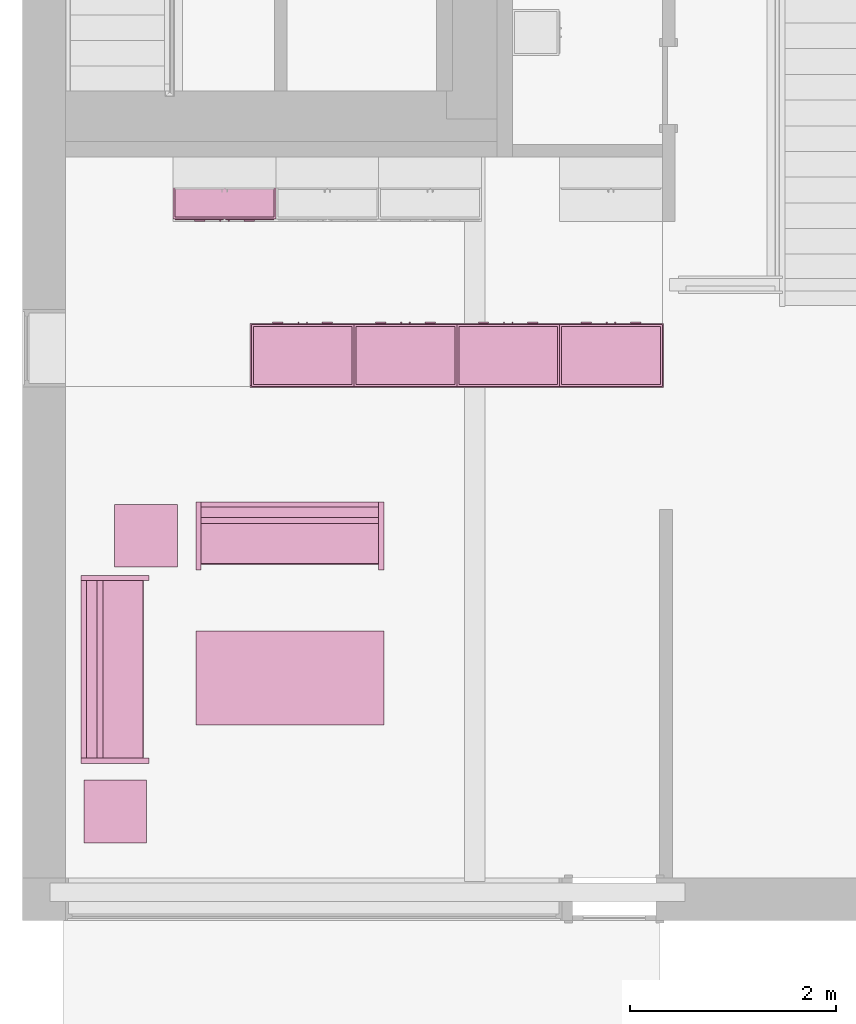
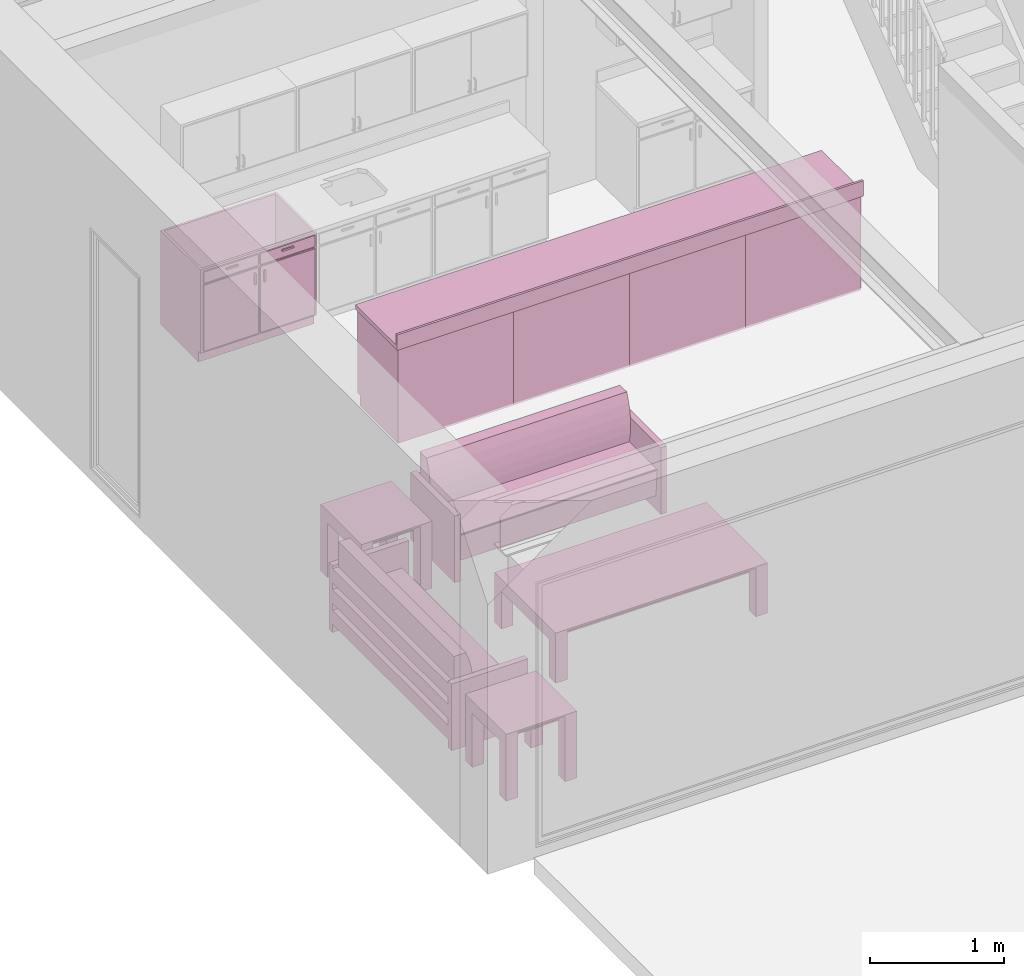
# One storey, part 9 of 18: 11 furnishings.
"""IFC4 building model written with IfcOpenShell, lengths in metres."""

from ifc_helpers import new_model, entity, si_unit, converted_unit, frame, origin, origin_2d_with_axis, place, context, project, spatial, polyline, rectangle, outline, extrude, face_set, surface_model, source, transform, mapped, type_object, type_shapes, element, save


model = new_model("IFC4")

# Units and contexts
model_context = context("Model", 3, precision=1e-09, world=origin())
plan_context = context("Plan", 3, precision=1e-09, world=origin())
ifc_project = project(units=[si_unit("LENGTHUNIT", "METRE"), si_unit("AREAUNIT", "SQUARE_METRE"), si_unit("VOLUMEUNIT", "CUBIC_METRE"), converted_unit("PLANEANGLEUNIT", "DEGREE", entity("IfcRatioMeasure", 0.01745329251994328), si_unit("PLANEANGLEUNIT", "RADIAN"), dimensions=[0, 0, 0, 0, 0, 0, 0]), si_unit("TIMEUNIT", "SECOND")], contexts=[model_context, plan_context])

# Site, building, storey, space
site_placement = place(None, origin())
site = spatial("IfcSite", under=ifc_project, at=site_placement, Name="Default", CompositionType="ELEMENT")
building_placement = place(site_placement, origin())
building = spatial("IfcBuilding", under=site, at=building_placement, CompositionType="ELEMENT")
storey_placement = place(building_placement, origin())
storey = spatial("IfcBuildingStorey", under=building, at=storey_placement, Name="Level 1", CompositionType="ELEMENT", Elevation=0.0)
space_1_placement = place(storey_placement, origin())
space_1 = spatial("IfcSpace", under=storey, at=space_1_placement, Name="A103", CompositionType="ELEMENT", PredefinedType="SPACE")

# Furnishings
furniture_type_1 = type_object("IfcFurnitureType", Name="1000mm", AssemblyPlace="NOTDEFINED")
shared_shape_1 = source(origin(), model_context, "Body", "SurfaceModel", [
    surface_model("IfcFaceBasedSurfaceModel", [(0.9809499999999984, 0.04445000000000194, 0.8600000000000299), (0.9809499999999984, 0.04445000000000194, 0.0999999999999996), (0.01905000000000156, 0.04445000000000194, 0.0999999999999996), (0.01905000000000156, 0.04445000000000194, 0.8600000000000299), (1.0, 0.02540000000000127, 0.8600000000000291), (0.0, 0.02540000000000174, 0.8600000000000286), (1.0, 0.02540000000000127, 0.0999999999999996), (0.0, 0.02540000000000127, 0.09999999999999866), (0.01905000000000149, 0.606349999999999, 0.8600000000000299), (0.01905000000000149, 0.606349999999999, 0.09999999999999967), (0.01905000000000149, 0.06040000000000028, 0.0999999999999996), (0.0, 0.6253999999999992, 0.8600000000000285), (0.0, 0.6254000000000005, 0.0), (0.0, 0.06040000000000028, 0.0), (0.0, 0.06040000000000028, 0.09999999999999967), (0.9809499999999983, 0.6063499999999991, 0.8600000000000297), (0.9809499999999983, 0.6063499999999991, 0.09999999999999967), (1.0, 0.6253999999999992, 0.8600000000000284), (1.0, 0.6253999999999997, 0.0), (0.9809499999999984, 0.06040000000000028, 0.09999999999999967), (1.0, 0.06040000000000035, 0.09999999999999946), (1.0, 0.06040000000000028, 0.0), (0.3103250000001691, 0.0, 0.815550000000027), (0.3103250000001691, 0.0, 0.8028500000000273), (0.2087250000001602, 0.0, 0.8028500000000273), (0.2087250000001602, 0.0, 0.815550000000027), (0.7912750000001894, 0.0, 0.815550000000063), (0.7912750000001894, 0.0, 0.8028500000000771), (0.6896750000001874, 0.0, 0.8028500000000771), (0.6896750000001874, 0.0, 0.815550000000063), (0.4650750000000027, 0.0, 0.6822000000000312), (0.4650750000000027, 0.0, 0.5806000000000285), (0.4523750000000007, 0.0, 0.5806000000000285), (0.4523750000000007, 0.0, 0.6822000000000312), (0.5476249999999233, 0.0, 0.6822000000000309), (0.5476249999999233, 0.0, 0.5806000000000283), (0.5349249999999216, 0.0, 0.5806000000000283), (0.5349249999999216, 0.0, 0.6822000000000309), (0.3103250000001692, 0.01270000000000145, 0.815550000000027), (0.3103250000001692, 0.01270000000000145, 0.8028500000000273), (0.2087250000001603, 0.01270000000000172, 0.8028500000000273), (0.2087250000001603, 0.01270000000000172, 0.815550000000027), (0.7912750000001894, 0.01269999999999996, 0.815550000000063), (0.7912750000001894, 0.01269999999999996, 0.8028500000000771), (0.6896750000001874, 0.01270000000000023, 0.8028500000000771), (0.6896750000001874, 0.01270000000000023, 0.815550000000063), (0.4650750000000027, 0.0127000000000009, 0.6822000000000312), (0.4650750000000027, 0.0127000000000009, 0.5806000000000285), (0.4523750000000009, 0.0127000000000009, 0.5806000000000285), (0.4523750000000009, 0.0127000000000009, 0.6822000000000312), (0.5476249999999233, 0.01270000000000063, 0.6822000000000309), (0.5476249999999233, 0.01270000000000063, 0.5806000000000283), (0.5349249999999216, 0.01270000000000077, 0.5806000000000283), (0.5349249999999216, 0.01270000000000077, 0.6822000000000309), (0.4904749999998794, 0.0127000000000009, 0.840950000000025), (0.4904749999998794, 0.0127000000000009, 0.7393500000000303), (0.01905000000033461, 0.01270000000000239, 0.7393500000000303), (0.01905000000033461, 0.01270000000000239, 0.840950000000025), (0.9809500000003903, 0.01269999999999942, 0.8409500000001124), (0.9809500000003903, 0.01269999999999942, 0.7393500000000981), (0.509524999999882, 0.0127000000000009, 0.7393500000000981), (0.509524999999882, 0.0127000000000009, 0.8409500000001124), (0.4904749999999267, 0.0127000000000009, 0.7203000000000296), (0.4904749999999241, 0.0127000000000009, 0.119049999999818), (0.01905000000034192, 0.01270000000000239, 0.119049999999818), (0.01905000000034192, 0.01270000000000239, 0.7203000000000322), (0.9809500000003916, 0.01269999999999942, 0.7203000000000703), (0.9809500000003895, 0.01269999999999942, 0.1190499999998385), (0.5095249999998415, 0.0127000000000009, 0.1190499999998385), (0.5095249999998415, 0.0127000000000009, 0.7203000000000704), (0.4904749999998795, 0.02540000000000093, 0.840950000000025), (0.4904749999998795, 0.02540000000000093, 0.7393500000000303), (0.01905000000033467, 0.02540000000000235, 0.7393500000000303), (0.01905000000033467, 0.02540000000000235, 0.840950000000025), (0.9809500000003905, 0.02539999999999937, 0.8409500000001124), (0.9809500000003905, 0.02539999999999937, 0.7393500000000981), (0.5095249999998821, 0.02540000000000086, 0.7393500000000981), (0.5095249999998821, 0.02540000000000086, 0.8409500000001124), (0.4904749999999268, 0.02540000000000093, 0.7203000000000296), (0.4904749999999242, 0.02540000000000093, 0.119049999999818), (0.01905000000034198, 0.02540000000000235, 0.119049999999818), (0.01905000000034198, 0.02540000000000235, 0.7203000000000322), (0.9809500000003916, 0.02539999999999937, 0.7203000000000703), (0.9809500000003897, 0.02539999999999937, 0.1190499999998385), (0.5095249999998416, 0.02540000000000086, 0.1190499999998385), (0.5095249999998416, 0.02540000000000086, 0.7203000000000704), (0.9809499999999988, 0.6063499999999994, 0.1190499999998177), (0.9809499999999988, 0.04445000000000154, 0.1190499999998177), (0.01905000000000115, 0.04445000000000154, 0.1190499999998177), (0.01905000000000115, 0.6063499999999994, 0.1190499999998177), (0.9809499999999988, 0.6063499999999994, 0.09999999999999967), (0.9809499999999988, 0.04445000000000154, 0.09999999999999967), (0.01905000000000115, 0.04445000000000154, 0.09999999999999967), (0.01905000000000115, 0.6063499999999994, 0.09999999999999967)], [face_set([[[0, 1, 2, 3]], [[0, 4, 5, 3]], [[4, 6, 7, 5]], [[2, 1, 6, 7]], [[3, 8, 9, 10, 2]], [[5, 11, 8, 3]], [[7, 5, 11, 12, 13, 14]], [[2, 7, 14, 10]], [[8, 15, 16, 9]], [[11, 17, 15, 8]], [[12, 11, 17, 18]], [[1, 19, 16, 15, 0]], [[0, 15, 17, 4]], [[4, 6, 20, 21, 18, 17]], [[6, 1, 19, 20]], [[10, 9, 16, 19]], [[18, 21, 13, 12]], [[13, 14, 10, 19, 20, 21]]]), face_set([[[22, 23, 24, 25]], [[26, 27, 28, 29]], [[30, 31, 32, 33]], [[34, 35, 36, 37]], [[38, 39, 40, 41]], [[42, 43, 44, 45]], [[46, 47, 48, 49]], [[50, 51, 52, 53]], [[25, 41, 38, 22]], [[24, 40, 41, 25]], [[23, 24, 40, 39]], [[22, 23, 39, 38]], [[29, 45, 42, 26]], [[28, 44, 45, 29]], [[27, 28, 44, 43]], [[26, 27, 43, 42]], [[33, 49, 46, 30]], [[32, 48, 49, 33]], [[31, 32, 48, 47]], [[30, 31, 47, 46]], [[37, 53, 50, 34]], [[36, 52, 53, 37]], [[35, 36, 52, 51]], [[34, 35, 51, 50]]]), face_set([[[54, 55, 56, 57]], [[58, 59, 60, 61]], [[62, 63, 64, 65]], [[66, 67, 68, 69]], [[70, 71, 72, 73]], [[74, 75, 76, 77]], [[78, 79, 80, 81]], [[82, 83, 84, 85]], [[57, 73, 70, 54]], [[56, 57, 73, 72]], [[55, 56, 72, 71]], [[54, 55, 71, 70]], [[61, 77, 74, 58]], [[60, 76, 77, 61]], [[59, 60, 76, 75]], [[58, 59, 75, 74]], [[65, 81, 78, 62]], [[64, 65, 81, 80]], [[63, 64, 80, 79]], [[62, 63, 79, 78]], [[69, 85, 82, 66]], [[68, 84, 85, 69]], [[67, 68, 84, 83]], [[66, 67, 83, 82]]]), face_set([[[86, 87, 88, 89]], [[90, 91, 92, 93]], [[89, 86, 90, 93]], [[88, 89, 93, 92]], [[87, 91, 92, 88]], [[86, 87, 91, 90]]])]),
])
type_shapes(furniture_type_1, [shared_shape_1])
for number, where, z_axis, x_axis in (
    (1, (6.225999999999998, -11.9746, 0.0), (0.0, 0.0, 1.0), (-1.0, 0.0, 0.0)),
    (2, (5.225999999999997, -11.9746, 0.0), (0.0, 0.0, 1.0), (-1.0, 0.0, 0.0)),
    (3, (4.225999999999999, -11.97460000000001, 0.0), (0.0, 0.0, 1.0), (-1.0, 0.0, 0.0)),
    (4, (3.225999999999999, -11.97460000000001, 0.0), (0.0, 0.0, 1.0), (-1.0, 0.0, 0.0)),
):
    element("IfcFurnishingElement", number, at=place(space_1_placement, frame(where, z_axis=z_axis, x_axis=x_axis)), inside=space_1, type_object=furniture_type_1, Name="M_Base Cabinet-Double Door & 2 Drawer:1000mm:1000mm", ObjectType="1000mm", context=model_context, shape_type="MappedRepresentation", body=[
        mapped(shared_shape_1, transform((0.0, 0.0, 0.0), scale=1.0)),
    ])
furniture_type_2 = type_object("IfcFurnitureType", Name="1000mm", AssemblyPlace="NOTDEFINED")
shared_shape_2 = source(origin(), model_context, "Body", "SurfaceModel", [
    surface_model("IfcFaceBasedSurfaceModel", [(0.9809499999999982, 0.5809499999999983, 0.8600000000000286), (0.01905000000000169, 0.5809499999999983, 0.8600000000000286), (0.01905000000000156, 0.5809499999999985, 0.0999999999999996), (0.9809499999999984, 0.5809499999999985, 0.0999999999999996), (0.0, 0.5999999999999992, 0.8600000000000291), (1.0, 0.5999999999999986, 0.8600000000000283), (0.0, 0.5999999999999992, 0.0999999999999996), (1.0, 0.5999999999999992, 0.09999999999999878), (0.01905000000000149, 0.5650000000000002, 0.09999999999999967), (0.01905000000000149, 0.01905000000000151, 0.0999999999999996), (0.01905000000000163, 0.01905000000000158, 0.8600000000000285), (0.0, 0.0, 0.860000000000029), (0.0, 0.0, 0.0), (0.0, 0.5650000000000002, 0.0), (0.0, 0.5650000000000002, 0.0999999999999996), (0.9809499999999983, 0.01905000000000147, 0.09999999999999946), (0.9809499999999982, 0.01905000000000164, 0.8600000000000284), (1.0, 0.0, 0.8600000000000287), (1.0, 0.0, 0.0), (0.9809499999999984, 0.5650000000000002, 0.09999999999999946), (1.0, 0.5650000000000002, 0.0), (1.0, 0.5650000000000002, 0.09999999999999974), (0.3103250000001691, 0.625399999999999, 0.815550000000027), (0.2087250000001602, 0.6253999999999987, 0.815550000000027), (0.2087250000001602, 0.6253999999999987, 0.8028500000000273), (0.3103250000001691, 0.625399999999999, 0.8028500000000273), (0.7912750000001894, 0.6254000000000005, 0.815550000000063), (0.6896750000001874, 0.6254000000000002, 0.815550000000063), (0.6896750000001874, 0.6254000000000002, 0.8028500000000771), (0.7912750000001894, 0.6254000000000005, 0.8028500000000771), (0.4650750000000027, 0.6253999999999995, 0.6822000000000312), (0.4523750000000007, 0.6253999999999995, 0.6822000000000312), (0.4523750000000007, 0.6253999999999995, 0.5806000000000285), (0.4650750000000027, 0.6253999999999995, 0.5806000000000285), (0.5476249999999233, 0.6253999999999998, 0.6822000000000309), (0.5349249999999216, 0.6253999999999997, 0.6822000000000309), (0.5349249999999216, 0.6253999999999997, 0.5806000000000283), (0.5476249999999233, 0.6253999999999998, 0.5806000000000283), (0.3103250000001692, 0.612699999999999, 0.815550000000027), (0.2087250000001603, 0.6126999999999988, 0.815550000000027), (0.2087250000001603, 0.6126999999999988, 0.8028500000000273), (0.3103250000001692, 0.612699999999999, 0.8028500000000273), (0.7912750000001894, 0.6127000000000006, 0.815550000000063), (0.6896750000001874, 0.6127000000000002, 0.815550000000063), (0.6896750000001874, 0.6127000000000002, 0.8028500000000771), (0.7912750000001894, 0.6127000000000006, 0.8028500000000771), (0.4650750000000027, 0.6126999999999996, 0.6822000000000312), (0.4523750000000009, 0.6126999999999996, 0.6822000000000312), (0.4523750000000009, 0.6126999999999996, 0.5806000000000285), (0.4650750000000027, 0.6126999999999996, 0.5806000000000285), (0.5476249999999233, 0.6126999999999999, 0.6822000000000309), (0.5349249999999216, 0.6126999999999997, 0.6822000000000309), (0.5349249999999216, 0.6126999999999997, 0.5806000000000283), (0.5476249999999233, 0.6126999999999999, 0.5806000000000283), (0.4904749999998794, 0.6126999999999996, 0.840950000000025), (0.01905000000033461, 0.6126999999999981, 0.840950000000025), (0.01905000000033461, 0.6126999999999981, 0.7393500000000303), (0.4904749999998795, 0.6126999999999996, 0.7393500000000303), (0.9809500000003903, 0.6127000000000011, 0.8409500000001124), (0.509524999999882, 0.6126999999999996, 0.8409500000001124), (0.509524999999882, 0.6126999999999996, 0.7393500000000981), (0.9809500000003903, 0.6127000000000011, 0.7393500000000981), (0.4904749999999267, 0.6126999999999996, 0.7203000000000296), (0.01905000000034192, 0.6126999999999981, 0.7203000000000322), (0.01905000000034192, 0.6126999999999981, 0.119049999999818), (0.4904749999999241, 0.6126999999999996, 0.119049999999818), (0.9809500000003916, 0.6127000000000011, 0.7203000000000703), (0.5095249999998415, 0.6126999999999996, 0.7203000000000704), (0.5095249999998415, 0.6126999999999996, 0.1190499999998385), (0.9809500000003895, 0.6127000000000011, 0.1190499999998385), (0.4904749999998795, 0.5999999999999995, 0.840950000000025), (0.01905000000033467, 0.5999999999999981, 0.840950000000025), (0.01905000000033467, 0.5999999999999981, 0.7393500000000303), (0.4904749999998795, 0.5999999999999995, 0.7393500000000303), (0.9809500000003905, 0.6000000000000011, 0.8409500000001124), (0.5095249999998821, 0.5999999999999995, 0.8409500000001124), (0.5095249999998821, 0.5999999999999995, 0.7393500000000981), (0.9809500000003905, 0.6000000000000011, 0.7393500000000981), (0.4904749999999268, 0.5999999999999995, 0.7203000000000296), (0.01905000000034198, 0.5999999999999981, 0.7203000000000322), (0.01905000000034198, 0.5999999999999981, 0.119049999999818), (0.4904749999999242, 0.5999999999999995, 0.119049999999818), (0.9809500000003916, 0.6000000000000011, 0.7203000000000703), (0.5095249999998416, 0.5999999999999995, 0.7203000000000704), (0.5095249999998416, 0.5999999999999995, 0.1190499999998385), (0.9809500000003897, 0.6000000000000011, 0.1190499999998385), (0.9809499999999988, 0.0190500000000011, 0.1190499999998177), (0.01905000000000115, 0.0190500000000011, 0.1190499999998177), (0.01905000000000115, 0.5809499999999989, 0.1190499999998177), (0.9809499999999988, 0.5809499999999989, 0.1190499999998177), (0.9809499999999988, 0.01905000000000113, 0.09999999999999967), (0.01905000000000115, 0.0190500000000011, 0.09999999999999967), (0.01905000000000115, 0.5809499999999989, 0.09999999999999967), (0.9809499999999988, 0.5809499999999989, 0.09999999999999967)], [face_set([[[0, 1, 2, 3]], [[0, 1, 4, 5]], [[5, 4, 6, 7]], [[2, 6, 7, 3]], [[1, 2, 8, 9, 10]], [[4, 1, 10, 11]], [[6, 4, 11, 12, 13, 14]], [[2, 8, 14, 6]], [[10, 9, 15, 16]], [[11, 10, 16, 17]], [[12, 18, 17, 11]], [[3, 0, 16, 15, 19]], [[0, 5, 17, 16]], [[5, 17, 18, 20, 21, 7]], [[7, 21, 19, 3]], [[8, 19, 15, 9]], [[18, 12, 13, 20]], [[13, 20, 21, 19, 8, 14]]]), face_set([[[22, 23, 24, 25]], [[26, 27, 28, 29]], [[30, 31, 32, 33]], [[34, 35, 36, 37]], [[38, 39, 40, 41]], [[42, 43, 44, 45]], [[46, 47, 48, 49]], [[50, 51, 52, 53]], [[23, 22, 38, 39]], [[24, 23, 39, 40]], [[25, 41, 40, 24]], [[22, 38, 41, 25]], [[27, 26, 42, 43]], [[28, 27, 43, 44]], [[29, 45, 44, 28]], [[26, 42, 45, 29]], [[31, 30, 46, 47]], [[32, 31, 47, 48]], [[33, 49, 48, 32]], [[30, 46, 49, 33]], [[35, 34, 50, 51]], [[36, 35, 51, 52]], [[37, 53, 52, 36]], [[34, 50, 53, 37]]]), face_set([[[54, 55, 56, 57]], [[58, 59, 60, 61]], [[62, 63, 64, 65]], [[66, 67, 68, 69]], [[70, 71, 72, 73]], [[74, 75, 76, 77]], [[78, 79, 80, 81]], [[82, 83, 84, 85]], [[55, 54, 70, 71]], [[56, 72, 71, 55]], [[57, 73, 72, 56]], [[54, 70, 73, 57]], [[59, 58, 74, 75]], [[60, 59, 75, 76]], [[61, 77, 76, 60]], [[58, 74, 77, 61]], [[63, 62, 78, 79]], [[64, 80, 79, 63]], [[65, 81, 80, 64]], [[62, 78, 81, 65]], [[67, 66, 82, 83]], [[68, 67, 83, 84]], [[69, 85, 84, 68]], [[66, 82, 85, 69]]]), face_set([[[86, 87, 88, 89]], [[90, 91, 92, 93]], [[87, 91, 90, 86]], [[88, 92, 91, 87]], [[89, 88, 92, 93]], [[86, 90, 93, 89]]])]),
])
type_shapes(furniture_type_2, [shared_shape_2])
furnishing_1_placement = place(space_1_placement, frame((2.465999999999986, -10.37000000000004, 0.0), z_axis=(0.0, 0.0, 1.0), x_axis=(-1.0, 0.0, 0.0)))
element("IfcFurnishingElement", 5, at=furnishing_1_placement, inside=space_1, type_object=furniture_type_2, Name="M_Base Cabinet-Double Door & 2 Drawer:1000mm:1000mm", ObjectType="1000mm", context=model_context, shape_type="MappedRepresentation", body=[
    mapped(shared_shape_2, transform((0.0, 0.0, 0.0), scale=1.0)),
])
furniture_type_3 = type_object("IfcFurnitureType", Name="600mm Depth", AssemblyPlace="NOTDEFINED")
shared_shape_3 = source(origin(), model_context, "Body", "SweptSolid", [
    extrude(rectangle(XDim=0.01905000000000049, YDim=4.023999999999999, at=origin_2d_with_axis()), frame((0.8115377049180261, -0.009525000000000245, 0.8999999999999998), z_axis=(0.0, 0.0, 1.0), x_axis=(0.0, -1.0, 0.0)), (0.0, 0.0, 1.0), 0.1016000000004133),
    extrude(rectangle(XDim=4.023999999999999, YDim=0.6249999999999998, at=origin_2d_with_axis()), frame((0.8115377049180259, -0.3124999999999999, 0.8600000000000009), z_axis=(0.0, 0.0, 1.0), x_axis=(-1.0, 0.0, 0.0)), (0.0, 0.0, 1.0), 0.03999999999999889),
])
type_shapes(furniture_type_3, [shared_shape_3])
furnishing_2_placement = place(space_1_placement, frame((5.037537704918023, -12.612, 0.0), z_axis=(0.0, 0.0, 1.0), x_axis=(-1.0, 0.0, 0.0)))
element("IfcFurnishingElement", 6, at=furnishing_2_placement, inside=space_1, type_object=furniture_type_3, Name="M_Counter Top:600mm Depth:600mm Depth", ObjectType="600mm Depth", context=model_context, shape_type="MappedRepresentation", body=[
    mapped(shared_shape_3, transform((0.0, 0.0, 0.0), scale=1.0)),
])

# Space
space_2_placement = place(storey_placement, origin())
space_2 = spatial("IfcSpace", under=storey, at=space_2_placement, Name="A102", CompositionType="ELEMENT", PredefinedType="SPACE")

# Furnishings
furniture_type_4 = type_object("IfcFurnitureType", Name="1830mm", AssemblyPlace="NOTDEFINED")
shared_shape_4 = source(origin(), model_context, "Body", "SurfaceModel", [
    surface_model("IfcFaceBasedSurfaceModel", [(0.0507999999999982, 0.6095999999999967, 0.5842), (0.05079999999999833, 0.6603999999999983, 0.5842), (0.05079999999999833, 0.6603999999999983, 0.4572000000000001), (0.0507999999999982, 0.6095999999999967, 0.4572000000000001), (0.0507999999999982, 0.6095999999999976, 0.3937000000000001), (0.05079999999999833, 0.6603999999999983, 0.3937000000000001), (0.05079999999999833, 0.6603999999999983, 0.2667), (0.0507999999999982, 0.6095999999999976, 0.2667), (0.0507999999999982, 0.6096000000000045, 0.2032), (0.05079999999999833, 0.6603999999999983, 0.2032), (0.05079999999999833, 0.6603999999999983, 0.0762), (0.0507999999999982, 0.6096000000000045, 0.0762), (1.779199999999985, 0.6095999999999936, 0.5842), (1.779199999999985, 0.6095999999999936, 0.4572000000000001), (1.779199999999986, 0.6603999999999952, 0.4572000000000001), (1.779199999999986, 0.6603999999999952, 0.5842), (1.779199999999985, 0.6095999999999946, 0.3937000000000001), (1.779199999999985, 0.6095999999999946, 0.2667), (1.779199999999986, 0.6603999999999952, 0.2667), (1.779199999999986, 0.6603999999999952, 0.3937000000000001), (1.779199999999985, 0.6096000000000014, 0.2032), (1.779199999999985, 0.6096000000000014, 0.0762), (1.779199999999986, 0.6603999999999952, 0.0762), (1.779199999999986, 0.6603999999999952, 0.2032), (0.05079999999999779, 0.4702223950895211, 0.3809999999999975), (0.05079999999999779, 0.4544013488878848, 0.4678311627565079), (0.05079999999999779, 0.4503004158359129, 0.5559965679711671), (0.05079999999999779, 0.4579928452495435, 0.6439214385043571), (0.05079999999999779, 0.4773412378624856, 0.7300352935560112), (0.05079999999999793, 0.5079999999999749, 0.8127999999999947), (0.05079999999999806, 0.6095999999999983, 0.8127999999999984), (0.05079999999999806, 0.6095999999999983, 0.1279665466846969), (0.05079999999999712, 0.07293755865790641, 0.1279665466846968), (0.05079999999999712, 0.05200794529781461, 0.367193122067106), (0.05079999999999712, 0.0526336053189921, 0.3723822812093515), (0.05079999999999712, 0.05529619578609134, 0.3768799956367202), (0.05079999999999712, 0.05954473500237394, 0.3799244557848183), (0.05079999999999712, 0.06465961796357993, 0.3810000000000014), (1.779199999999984, 0.4702223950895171, 0.3810000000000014), (1.779199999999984, 0.06465961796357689, 0.3810000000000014), (1.779199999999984, 0.05954473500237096, 0.3799244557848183), (1.779199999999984, 0.05529619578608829, 0.3768799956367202), (1.779199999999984, 0.05263360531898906, 0.3723822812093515), (1.779199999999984, 0.05200794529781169, 0.3671931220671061), (1.779199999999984, 0.07293755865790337, 0.1279665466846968), (1.779199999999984, 0.6095999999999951, 0.1279665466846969), (1.779199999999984, 0.6095999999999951, 0.8127999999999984), (1.779199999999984, 0.5079999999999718, 0.8127999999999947), (1.779199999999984, 0.4773412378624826, 0.7300352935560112), (1.779199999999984, 0.4579928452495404, 0.6439214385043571), (1.779199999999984, 0.4503004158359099, 0.5559965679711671), (1.779199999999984, 0.4544013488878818, 0.4678311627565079), (0.05079998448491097, 0.05396489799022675, 0.3746311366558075), (1.779199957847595, 0.05396489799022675, 0.3746311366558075), (0.05079998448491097, 0.05232077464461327, 0.369787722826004), (1.779199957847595, 0.05232077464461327, 0.369787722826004), (1.779199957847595, 0.06210217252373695, 0.3804622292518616), (0.05079998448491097, 0.0621788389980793, 0.3804783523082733), (1.779199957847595, 0.05742046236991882, 0.3784022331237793), (0.05079998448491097, 0.05742046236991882, 0.3784022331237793), (0.05079999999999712, 0.6603999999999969, 0.6096), (0.05079999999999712, 0.0, 0.6096), (0.0, 0.0, 0.6096), (0.0, 0.6603999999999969, 0.6096), (1.829999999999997, 0.6604000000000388, 0.6096), (1.829999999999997, 0.0, 0.6096), (1.779199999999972, 0.0, 0.6096), (1.779199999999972, 0.6604000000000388, 0.6096), (0.05079999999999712, 0.6603999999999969, 0.0), (0.05079999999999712, 0.0, 0.0), (0.0, 0.0, 0.0), (0.0, 0.6603999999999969, 0.0), (1.829999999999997, 0.6604000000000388, 0.0), (1.829999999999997, 0.0, 0.0), (1.779199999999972, 0.0, 0.0), (1.779199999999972, 0.6604000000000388, 0.0)], [face_set([[[0, 1, 2, 3]], [[4, 5, 6, 7]], [[8, 9, 10, 11]], [[12, 13, 14, 15]], [[16, 17, 18, 19]], [[20, 21, 22, 23]], [[1, 15, 12, 0]], [[2, 14, 15, 1]], [[3, 2, 14, 13]], [[0, 3, 13, 12]], [[5, 19, 16, 4]], [[6, 18, 19, 5]], [[7, 6, 18, 17]], [[4, 7, 17, 16]], [[9, 23, 20, 8]], [[10, 22, 23, 9]], [[11, 10, 22, 21]], [[8, 11, 21, 20]]]), face_set([[[24, 25, 26, 27, 28, 29, 30, 31, 32, 33, 34, 35, 36, 37]], [[38, 39, 40, 41, 42, 43, 44, 45, 46, 47, 48, 49, 50, 51]], [[24, 25, 51, 38]], [[25, 26, 50, 51]], [[49, 50, 26, 27]], [[27, 28, 48, 49]], [[28, 29, 47, 48]], [[30, 46, 47, 29]], [[31, 30, 46, 45]], [[32, 31, 45, 44]], [[33, 32, 44, 43]], [[41, 35, 52, 53]], [[54, 55, 42, 34]], [[33, 43, 55, 54]], [[34, 42, 53, 52]], [[39, 56, 57]], [[35, 41, 58, 59]], [[56, 40, 36]], [[57, 37, 39]], [[57, 56, 36]], [[40, 36, 59, 58]], [[24, 38, 39, 37]]]), face_set([[[60, 61, 62, 63]], [[64, 65, 66, 67]], [[68, 69, 70, 71]], [[72, 73, 74, 75]], [[63, 60, 68, 71]], [[62, 63, 71, 70]], [[61, 62, 70, 69]], [[60, 68, 69, 61]], [[67, 64, 72, 75]], [[66, 74, 75, 67]], [[65, 66, 74, 73]], [[64, 65, 73, 72]]])]),
])
type_shapes(furniture_type_4, [shared_shape_4])
furnishing_3_placement = place(space_2_placement, frame((1.231099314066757, -16.27038266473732, 0.0), z_axis=(0.0, 0.0, 1.0), x_axis=(0.0, 1.0, 0.0)))
element("IfcFurnishingElement", 7, at=furnishing_3_placement, inside=space_2, type_object=furniture_type_4, Name="M_Sofa:1830mm:1830mm", ObjectType="1830mm", context=model_context, shape_type="MappedRepresentation", body=[
    mapped(shared_shape_4, transform((0.0, 0.0, 0.0), scale=1.0)),
])
furnishing_4_placement = place(space_2_placement, frame((1.685899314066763, -14.38558266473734, 0.0)))
element("IfcFurnishingElement", 8, at=furnishing_4_placement, inside=space_2, type_object=furniture_type_4, Name="M_Sofa:1830mm:1830mm", ObjectType="1830mm", context=model_context, shape_type="MappedRepresentation", body=[
    mapped(shared_shape_4, transform((0.0, 0.0, 0.0), scale=1.0)),
])
furniture_type_5 = type_object("IfcFurnitureType", Name="0610 x 0610 x 0610mm", AssemblyPlace="NOTDEFINED")
shared_shape_5 = source(origin(), model_context, "Body", "SweptSolid", [
    extrude(rectangle(XDim=0.4067999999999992, YDim=0.4067999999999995, at=origin_2d_with_axis()), frame((0.01826576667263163, 0.09521107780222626, 0.4957000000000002), z_axis=(0.0, 0.0, 1.0), x_axis=(-1.0, 0.0, 0.0)), (0.0, 0.0, 1.0), 0.01270000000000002),
    extrude(outline(polyline([(-0.2732499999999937, -0.3050000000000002), (0.3240499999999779, -0.3050000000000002), (0.3240499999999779, 0.3049999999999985), (-0.2732499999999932, 0.3049999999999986), (-0.2732499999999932, 0.2034000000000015), (0.2224500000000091, 0.2034000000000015), (0.2224500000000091, -0.2033999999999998), (-0.2732499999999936, -0.2033999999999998), (-0.2732499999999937, -0.3050000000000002)])), frame((0.2216657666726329, 0.09521107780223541, 0.2732499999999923), z_axis=(1.0, 0.0, 0.0), x_axis=(0.0, 0.0, 1.0)), (0.0, 0.0, 1.0), 0.1016),
    extrude(outline(polyline([(-0.3050000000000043, -0.3240500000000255), (0.3049999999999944, -0.3240500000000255), (0.3049999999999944, 0.2732500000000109), (0.2034000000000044, 0.2732500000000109), (0.2034000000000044, -0.2224499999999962), (-0.2033999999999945, -0.2224499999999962), (-0.2033999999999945, 0.2732500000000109), (-0.3050000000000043, 0.2732500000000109), (-0.3050000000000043, -0.3240500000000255)])), frame((-0.2867342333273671, 0.09521107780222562, 0.2732500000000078), z_axis=(1.0, 0.0, 0.0), x_axis=(0.0, -1.0, 0.0)), (0.0, 0.0, 1.0), 0.1016),
    extrude(rectangle(XDim=0.4067999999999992, YDim=0.4067999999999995, at=origin_2d_with_axis()), frame((0.01826576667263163, 0.09521107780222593, 0.5973000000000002), z_axis=(0.0, 0.0, 1.0), x_axis=(-1.0, 0.0, 0.0)), (0.0, 0.0, 1.0), 0.01270000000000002),
    extrude(outline(polyline([(-0.3050000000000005, -0.3050000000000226), (0.3050000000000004, -0.3050000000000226), (0.3050000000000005, 0.3050000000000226), (-0.3050000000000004, 0.3050000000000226), (-0.3050000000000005, -0.3050000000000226)]), holes=[polyline([(-0.203399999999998, -0.2033999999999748), (-0.2033999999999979, 0.2034000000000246), (0.2034000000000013, 0.2034000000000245), (0.2034000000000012, -0.2033999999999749), (-0.203399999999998, -0.2033999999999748)])]), frame((0.01826576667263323, 0.09521107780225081, 0.5973000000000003), z_axis=(0.0, 0.0, 1.0), x_axis=(-1.0, 0.0, 0.0)), (0.0, 0.0, 1.0), 0.01269999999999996),
])
type_shapes(furniture_type_5, [shared_shape_5])
for number, where, z_axis, x_axis, name in (
    (9, (1.219165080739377, -13.96017158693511, 0.0), (0.0, 0.0, 1.0), (-1.0, 0.0, 0.0), "M_Table-Coffee:0610 x 0610 x 0610mm:0610 x 0610 x 0610mm"),
    (10, (0.9191650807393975, -16.64317158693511, 0.0), (0.0, 0.0, 1.0), (-1.0, 0.0, 0.0), "M_Table-Coffee:0610 x 0610 x 0610mm:0610 x 0610 x 0610mm"),
):
    element("IfcFurnishingElement", number, at=place(space_2_placement, frame(where, z_axis=z_axis, x_axis=x_axis)), inside=space_2, type_object=furniture_type_5, Name=name, ObjectType="0610 x 0610 x 0610mm", context=model_context, shape_type="MappedRepresentation", body=[
        mapped(shared_shape_5, transform((0.0, 0.0, 0.0), scale=1.0)),
    ])
furniture_type_6 = type_object("IfcFurnitureType", Name="0915 x 1830 x 0457mm", AssemblyPlace="NOTDEFINED")
shared_shape_6 = source(origin(), model_context, "Body", "SweptSolid", [
    extrude(rectangle(XDim=1.626799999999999, YDim=0.7117999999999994, at=origin_2d_with_axis()), frame((0.01826576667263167, 0.0952110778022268, 0.3427000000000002), z_axis=(0.0, 0.0, 1.0), x_axis=(-1.0, 0.0, 0.0)), (0.0, 0.0, 1.0), 0.01270000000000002),
    extrude(outline(polyline([(-0.1967499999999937, -0.4575000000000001), (0.2475499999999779, -0.4575000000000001), (0.2475499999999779, 0.4574999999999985), (-0.1967499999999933, 0.4574999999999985), (-0.1967499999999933, 0.3559000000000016), (0.145950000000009, 0.3559000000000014), (0.145950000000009, -0.3558999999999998), (-0.1967499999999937, -0.3558999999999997), (-0.1967499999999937, -0.4575000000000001)])), frame((0.8316657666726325, 0.09521107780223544, 0.1967499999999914), z_axis=(1.0, 0.0, 0.0), x_axis=(0.0, 0.0, 1.0)), (0.0, 0.0, 1.0), 0.1016000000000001),
    extrude(outline(polyline([(-0.4575000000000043, -0.2475500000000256), (0.4574999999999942, -0.2475500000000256), (0.4574999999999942, 0.1967500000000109), (0.3559000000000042, 0.1967500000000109), (0.3559000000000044, -0.1459499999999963), (-0.3558999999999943, -0.1459499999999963), (-0.3558999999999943, 0.1967500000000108), (-0.4575000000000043, 0.1967500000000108), (-0.4575000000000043, -0.2475500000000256)])), frame((-0.8967342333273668, 0.09521107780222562, 0.1967500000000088), z_axis=(1.0, 0.0, 0.0), x_axis=(0.0, -1.0, 0.0)), (0.0, 0.0, 1.0), 0.1016000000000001),
    extrude(rectangle(XDim=1.626799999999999, YDim=0.7117999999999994, at=origin_2d_with_axis()), frame((0.01826576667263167, 0.09521107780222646, 0.4443000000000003), z_axis=(0.0, 0.0, 1.0), x_axis=(-1.0, 0.0, 0.0)), (0.0, 0.0, 1.0), 0.01270000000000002),
    extrude(outline(polyline([(-0.9150000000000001, -0.4575000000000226), (0.9150000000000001, -0.4575000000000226), (0.9150000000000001, 0.4575000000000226), (-0.9150000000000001, 0.4575000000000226), (-0.9150000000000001, -0.4575000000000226)]), holes=[polyline([(-0.8133999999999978, -0.3558999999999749), (-0.8133999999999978, 0.3559000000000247), (0.8134000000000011, 0.3559000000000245), (0.8134000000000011, -0.3558999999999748), (-0.8133999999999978, -0.3558999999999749)])]), frame((0.01826576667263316, 0.09521107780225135, 0.4443000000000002), z_axis=(0.0, 0.0, 1.0), x_axis=(-1.0, 0.0, 0.0)), (0.0, 0.0, 1.0), 0.01270000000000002),
])
type_shapes(furniture_type_6, [shared_shape_6])
furnishing_5_placement = place(space_2_placement, frame((2.619165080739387, -15.3431715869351, 0.0), z_axis=(0.0, 0.0, 1.0), x_axis=(-1.0, 0.0, 0.0)))
element("IfcFurnishingElement", 11, at=furnishing_5_placement, inside=space_2, type_object=furniture_type_6, Name="M_Table-Coffee:0915 x 1830 x 0457mm:0915 x 1830 x 0457mm", ObjectType="0915 x 1830 x 0457mm", context=model_context, shape_type="MappedRepresentation", body=[
    mapped(shared_shape_6, transform((0.0, 0.0, 0.0), scale=1.0)),
])

save(model, "model.ifc")
